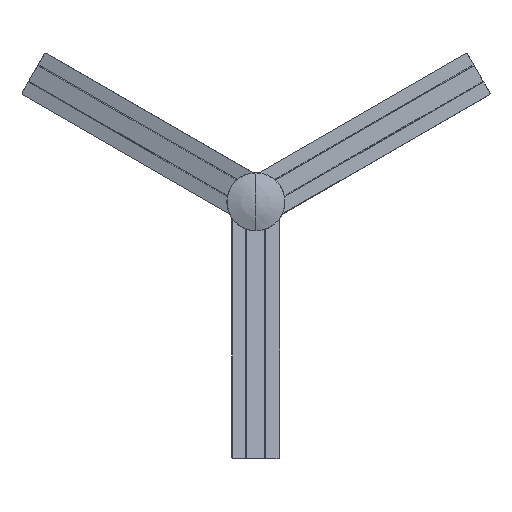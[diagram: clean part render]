
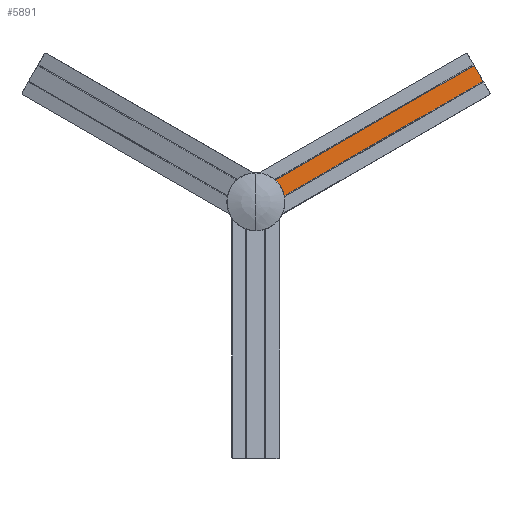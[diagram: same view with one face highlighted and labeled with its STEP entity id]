
A CAD part, top view. The second image highlights one B-rep face of the part: STEP entity #5891.
In plain terms, the highlighted planar face has unit normal (-0.113, 0.195, 0.974) as drawn and (0.225, 0, 0.974) by its records, which use the part's own axes.
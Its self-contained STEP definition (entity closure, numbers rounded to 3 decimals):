
#68=FACE_BOUND('',#979,.T.);
#257=CIRCLE('',#6301,56.);
#265=CIRCLE('',#6352,2.6);
#266=CIRCLE('',#6355,2.6);
#658=FACE_OUTER_BOUND('',#978,.T.);
#978=EDGE_LOOP('',(#4802,#4803,#4804,#4805));
#979=EDGE_LOOP('',(#4806,#4807));
#1409=LINE('',#10455,#1936);
#1415=LINE('',#10528,#1942);
#1509=LINE('',#10808,#2036);
#1936=VECTOR('',#7357,304.8);
#1942=VECTOR('',#7401,304.8);
#2036=VECTOR('',#7655,1.);
#2520=VERTEX_POINT('',#10448);
#2522=VERTEX_POINT('',#10454);
#2537=VERTEX_POINT('',#10511);
#2542=VERTEX_POINT('',#10527);
#2592=VERTEX_POINT('',#10704);
#2593=VERTEX_POINT('',#10706);
#3247=EDGE_CURVE('',#2522,#2520,#1409,.T.);
#3265=EDGE_CURVE('',#2537,#2522,#257,.T.);
#3271=EDGE_CURVE('',#2542,#2537,#1415,.T.);
#3351=EDGE_CURVE('',#2593,#2592,#265,.T.);
#3354=EDGE_CURVE('',#2592,#2593,#266,.T.);
#3402=EDGE_CURVE('',#2542,#2520,#1509,.T.);
#4802=ORIENTED_EDGE('',*,*,#3265,.T.);
#4803=ORIENTED_EDGE('',*,*,#3247,.T.);
#4804=ORIENTED_EDGE('',*,*,#3402,.F.);
#4805=ORIENTED_EDGE('',*,*,#3271,.T.);
#4806=ORIENTED_EDGE('',*,*,#3354,.T.);
#4807=ORIENTED_EDGE('',*,*,#3351,.T.);
#5617=PLANE('',#6383);
#5891=ADVANCED_FACE('',(#658,#68),#5617,.T.);
#6301=AXIS2_PLACEMENT_3D('',#10512,#7392,#7393);
#6352=AXIS2_PLACEMENT_3D('',#10707,#7554,#7555);
#6355=AXIS2_PLACEMENT_3D('',#10711,#7561,#7562);
#6383=AXIS2_PLACEMENT_3D('',#10807,#7653,#7654);
#7357=DIRECTION('',(0.,-1.,0.));
#7392=DIRECTION('center_axis',(-0.225,0.,-0.974));
#7393=DIRECTION('ref_axis',(0.88,0.429,-0.203));
#7401=DIRECTION('',(0.,1.,0.));
#7554=DIRECTION('center_axis',(-0.225,0.,-0.974));
#7555=DIRECTION('ref_axis',(0.974,0.,-0.225));
#7561=DIRECTION('center_axis',(-0.225,0.,-0.974));
#7562=DIRECTION('ref_axis',(0.974,0.,-0.225));
#7653=DIRECTION('center_axis',(0.225,0.,0.974));
#7654=DIRECTION('ref_axis',(0.974,0.,-0.225));
#7655=DIRECTION('',(-0.974,0.,0.225));
#10448=CARTESIAN_POINT('',(-23.722,-659.99,1734.52));
#10454=CARTESIAN_POINT('',(-23.722,-50.617,1734.52));
#10455=CARTESIAN_POINT('',(-23.722,-50.617,1734.52));
#10511=CARTESIAN_POINT('',(23.047,-50.576,1723.722));
#10512=CARTESIAN_POINT('Origin',(-0.38,0.,
1729.131));
#10527=CARTESIAN_POINT('',(23.047,-659.99,1723.722));
#10528=CARTESIAN_POINT('',(23.047,-659.99,1723.722));
#10704=CARTESIAN_POINT('',(-2.913,-67.,1729.716));
#10706=CARTESIAN_POINT('',(2.153,-67.,1728.546));
#10707=CARTESIAN_POINT('Origin',(-0.38,-67.,1729.131));
#10711=CARTESIAN_POINT('Origin',(-0.38,-67.,1729.131));
#10807=CARTESIAN_POINT('Origin',(73.615,33.77,1712.048));
#10808=CARTESIAN_POINT('',(73.779,-659.99,1712.01));
